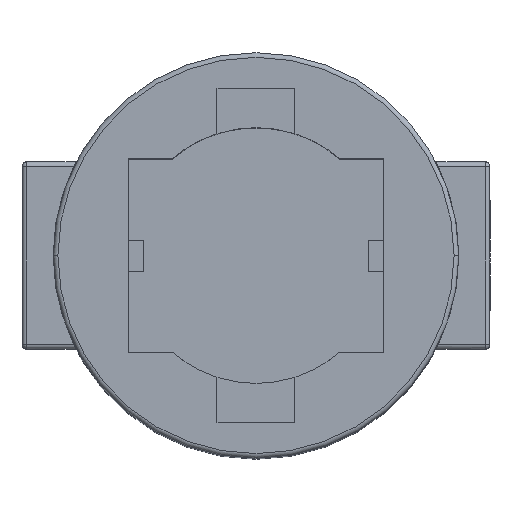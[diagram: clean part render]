
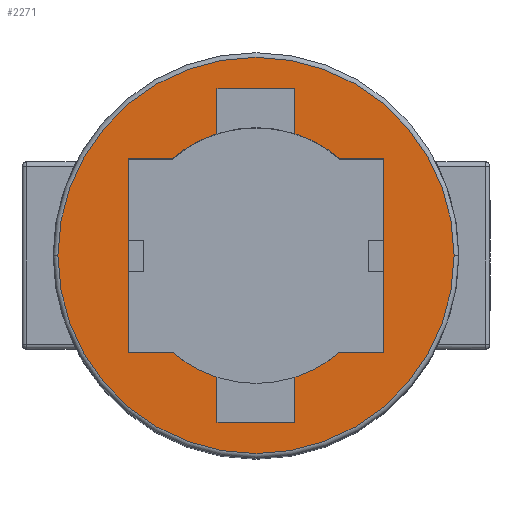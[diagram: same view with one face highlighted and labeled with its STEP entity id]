
A CAD part, top view. The second image highlights one B-rep face of the part: STEP entity #2271.
In plain terms, the highlighted planar face has unit normal (0, 0, 1).
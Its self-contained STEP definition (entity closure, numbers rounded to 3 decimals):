
#14 = LINE ( 'NONE', #1258, #1644 ) ;
#38 = VERTEX_POINT ( 'NONE', #153 ) ;
#61 = CARTESIAN_POINT ( 'NONE',  ( -12.5, -53.5, 191.6 ) ) ;
#64 = CARTESIAN_POINT ( 'NONE',  ( 12.5, 39.048, 191.6 ) ) ;
#102 = LINE ( 'NONE', #287, #2418 ) ;
#133 = VECTOR ( 'NONE', #1469, 1000. ) ;
#150 = EDGE_CURVE ( 'NONE', #2546, #1042, #1935, .T. ) ;
#153 = CARTESIAN_POINT ( 'NONE',  ( -26.833, 31., 191.6 ) ) ;
#156 = DIRECTION ( 'NONE',  ( 0., -1., 0. ) ) ;
#172 = ORIENTED_EDGE ( 'NONE', *, *, #150, .F. ) ;
#189 = DIRECTION ( 'NONE',  ( 0., 1., 0. ) ) ;
#190 = CARTESIAN_POINT ( 'NONE',  ( -12.5, -39.048, 191.6 ) ) ;
#207 = DIRECTION ( 'NONE',  ( -1., 0., 0. ) ) ;
#216 = VERTEX_POINT ( 'NONE', #502 ) ;
#228 = CARTESIAN_POINT ( 'NONE',  ( 0., 0., 191.6 ) ) ;
#245 = ORIENTED_EDGE ( 'NONE', *, *, #1901, .F. ) ;
#275 = DIRECTION ( 'NONE',  ( 0., 1., 0. ) ) ;
#276 = LINE ( 'NONE', #61, #1636 ) ;
#287 = CARTESIAN_POINT ( 'NONE',  ( 12.5, 53.5, 191.6 ) ) ;
#323 = ORIENTED_EDGE ( 'NONE', *, *, #2184, .F. ) ;
#345 = CARTESIAN_POINT ( 'NONE',  ( 0., 0., 191.6 ) ) ;
#365 = CARTESIAN_POINT ( 'NONE',  ( -41., 31., 191.6 ) ) ;
#411 = CARTESIAN_POINT ( 'NONE',  ( -12.5, 53.5, 191.6 ) ) ;
#442 = VECTOR ( 'NONE', #1996, 1000. ) ;
#458 = VERTEX_POINT ( 'NONE', #603 ) ;
#462 = DIRECTION ( 'NONE',  ( 0., 1., 0. ) ) ;
#481 = CARTESIAN_POINT ( 'NONE',  ( 63.5, 0., 191.6 ) ) ;
#488 = AXIS2_PLACEMENT_3D ( 'NONE', #345, #1479, #2010 ) ;
#500 = ORIENTED_EDGE ( 'NONE', *, *, #974, .F. ) ;
#502 = CARTESIAN_POINT ( 'NONE',  ( 26.833, 31., 191.6 ) ) ;
#503 = DIRECTION ( 'NONE',  ( 0., 0., 1. ) ) ;
#603 = CARTESIAN_POINT ( 'NONE',  ( -12.5, 39.048, 191.6 ) ) ;
#616 = LINE ( 'NONE', #1913, #2343 ) ;
#631 = EDGE_CURVE ( 'NONE', #1476, #2634, #14, .T. ) ;
#637 = EDGE_CURVE ( 'NONE', #1794, #1552, #616, .T. ) ;
#638 = DIRECTION ( 'NONE',  ( 1., 0., 0. ) ) ;
#642 = CARTESIAN_POINT ( 'NONE',  ( -41., 31., 191.6 ) ) ;
#662 = EDGE_CURVE ( 'NONE', #1068, #1524, #896, .T. ) ;
#668 = LINE ( 'NONE', #1515, #2431 ) ;
#687 = DIRECTION ( 'NONE',  ( 1., 0., 0. ) ) ;
#696 = CARTESIAN_POINT ( 'NONE',  ( 41., 31., 191.6 ) ) ;
#716 = VERTEX_POINT ( 'NONE', #1542 ) ;
#733 = ORIENTED_EDGE ( 'NONE', *, *, #778, .F. ) ;
#738 = VECTOR ( 'NONE', #2305, 1000. ) ;
#778 = EDGE_CURVE ( 'NONE', #1042, #1959, #668, .T. ) ;
#836 = CARTESIAN_POINT ( 'NONE',  ( 0., 0., 191.6 ) ) ;
#849 = CARTESIAN_POINT ( 'NONE',  ( 41., -31., 191.6 ) ) ;
#866 = LINE ( 'NONE', #642, #133 ) ;
#869 = VECTOR ( 'NONE', #999, 1000. ) ;
#887 = DIRECTION ( 'NONE',  ( 0., 0., 1. ) ) ;
#896 = CIRCLE ( 'NONE', #1160, 63.5 ) ;
#914 = EDGE_CURVE ( 'NONE', #458, #38, #1753, .T. ) ;
#927 = EDGE_CURVE ( 'NONE', #1153, #1794, #1419, .T. ) ;
#970 = LINE ( 'NONE', #411, #442 ) ;
#974 = EDGE_CURVE ( 'NONE', #38, #1153, #2056, .T. ) ;
#988 = CARTESIAN_POINT ( 'NONE',  ( -12.5, 53.5, 191.6 ) ) ;
#999 = DIRECTION ( 'NONE',  ( 0., -1., 0. ) ) ;
#1022 = AXIS2_PLACEMENT_3D ( 'NONE', #1874, #2710, #1465 ) ;
#1042 = VERTEX_POINT ( 'NONE', #849 ) ;
#1055 = ORIENTED_EDGE ( 'NONE', *, *, #631, .F. ) ;
#1059 = VERTEX_POINT ( 'NONE', #1095 ) ;
#1066 = CIRCLE ( 'NONE', #1199, 41. ) ;
#1068 = VERTEX_POINT ( 'NONE', #1896 ) ;
#1088 = EDGE_CURVE ( 'NONE', #1524, #1068, #2626, .T. ) ;
#1095 = CARTESIAN_POINT ( 'NONE',  ( -12.5, 53.5, 191.6 ) ) ;
#1128 = DIRECTION ( 'NONE',  ( 1., 0., 0. ) ) ;
#1138 = AXIS2_PLACEMENT_3D ( 'NONE', #2576, #2545, #687 ) ;
#1143 = EDGE_LOOP ( 'NONE', ( #172, #2381, #1055, #2683, #2592, #1759, #1349, #1675, #500, #1369, #2690, #323, #245, #1239, #2256, #733 ) ) ;
#1148 = CARTESIAN_POINT ( 'NONE',  ( -41., 31., 191.6 ) ) ;
#1149 = VERTEX_POINT ( 'NONE', #64 ) ;
#1153 = VERTEX_POINT ( 'NONE', #1148 ) ;
#1160 = AXIS2_PLACEMENT_3D ( 'NONE', #228, #2285, #1468 ) ;
#1199 = AXIS2_PLACEMENT_3D ( 'NONE', #1786, #503, #1377 ) ;
#1239 = ORIENTED_EDGE ( 'NONE', *, *, #2518, .F. ) ;
#1249 = EDGE_CURVE ( 'NONE', #1059, #458, #1670, .T. ) ;
#1258 = CARTESIAN_POINT ( 'NONE',  ( 12.5, -53.5, 191.6 ) ) ;
#1262 = CARTESIAN_POINT ( 'NONE',  ( 12.5, -53.5, 191.6 ) ) ;
#1349 = ORIENTED_EDGE ( 'NONE', *, *, #637, .F. ) ;
#1368 = CARTESIAN_POINT ( 'NONE',  ( -26.833, -31., 191.6 ) ) ;
#1369 = ORIENTED_EDGE ( 'NONE', *, *, #914, .F. ) ;
#1377 = DIRECTION ( 'NONE',  ( 1., 0., 0. ) ) ;
#1395 = EDGE_CURVE ( 'NONE', #1934, #1476, #2147, .T. ) ;
#1414 = FACE_OUTER_BOUND ( 'NONE', #2544, .T. ) ;
#1419 = LINE ( 'NONE', #2665, #1964 ) ;
#1459 = CIRCLE ( 'NONE', #2407, 41. ) ;
#1465 = DIRECTION ( 'NONE',  ( 1., 0., 0. ) ) ;
#1468 = DIRECTION ( 'NONE',  ( 1., 0., 0. ) ) ;
#1469 = DIRECTION ( 'NONE',  ( -1., 0., 0. ) ) ;
#1476 = VERTEX_POINT ( 'NONE', #1262 ) ;
#1479 = DIRECTION ( 'NONE',  ( 0., 0., 1. ) ) ;
#1515 = CARTESIAN_POINT ( 'NONE',  ( 41., 31., 191.6 ) ) ;
#1517 = CARTESIAN_POINT ( 'NONE',  ( -41., -31., 191.6 ) ) ;
#1524 = VERTEX_POINT ( 'NONE', #481 ) ;
#1542 = CARTESIAN_POINT ( 'NONE',  ( 12.5, 53.5, 191.6 ) ) ;
#1552 = VERTEX_POINT ( 'NONE', #1368 ) ;
#1633 = VERTEX_POINT ( 'NONE', #190 ) ;
#1636 = VECTOR ( 'NONE', #1777, 1000. ) ;
#1644 = VECTOR ( 'NONE', #189, 1000. ) ;
#1650 = CARTESIAN_POINT ( 'NONE',  ( 12.5, -39.048, 191.6 ) ) ;
#1665 = VECTOR ( 'NONE', #207, 1000. ) ;
#1666 = FACE_BOUND ( 'NONE', #1143, .T. ) ;
#1670 = LINE ( 'NONE', #988, #869 ) ;
#1675 = ORIENTED_EDGE ( 'NONE', *, *, #927, .F. ) ;
#1753 = CIRCLE ( 'NONE', #2055, 41. ) ;
#1758 = EDGE_CURVE ( 'NONE', #1959, #216, #866, .T. ) ;
#1759 = ORIENTED_EDGE ( 'NONE', *, *, #2069, .F. ) ;
#1777 = DIRECTION ( 'NONE',  ( 0., -1., 0. ) ) ;
#1786 = CARTESIAN_POINT ( 'NONE',  ( 0., 0., 191.6 ) ) ;
#1792 = PLANE ( 'NONE',  #488 ) ;
#1794 = VERTEX_POINT ( 'NONE', #1517 ) ;
#1869 = DIRECTION ( 'NONE',  ( 0., 0., 1. ) ) ;
#1874 = CARTESIAN_POINT ( 'NONE',  ( 0., 0., 191.6 ) ) ;
#1896 = CARTESIAN_POINT ( 'NONE',  ( -63.5, 0., 191.6 ) ) ;
#1901 = EDGE_CURVE ( 'NONE', #1149, #716, #102, .T. ) ;
#1913 = CARTESIAN_POINT ( 'NONE',  ( -41., -31., 191.6 ) ) ;
#1934 = VERTEX_POINT ( 'NONE', #1963 ) ;
#1935 = LINE ( 'NONE', #2580, #2386 ) ;
#1959 = VERTEX_POINT ( 'NONE', #696 ) ;
#1963 = CARTESIAN_POINT ( 'NONE',  ( -12.5, -53.5, 191.6 ) ) ;
#1964 = VECTOR ( 'NONE', #156, 1000. ) ;
#1996 = DIRECTION ( 'NONE',  ( -1., 0., 0. ) ) ;
#2010 = DIRECTION ( 'NONE',  ( 1., 0., 0. ) ) ;
#2055 = AXIS2_PLACEMENT_3D ( 'NONE', #2679, #1869, #2265 ) ;
#2056 = LINE ( 'NONE', #365, #1665 ) ;
#2069 = EDGE_CURVE ( 'NONE', #1552, #1633, #2201, .T. ) ;
#2078 = DIRECTION ( 'NONE',  ( 1., 0., 0. ) ) ;
#2119 = CARTESIAN_POINT ( 'NONE',  ( -12.5, -53.5, 191.6 ) ) ;
#2123 = EDGE_CURVE ( 'NONE', #1633, #1934, #276, .T. ) ;
#2147 = LINE ( 'NONE', #2119, #738 ) ;
#2171 = CARTESIAN_POINT ( 'NONE',  ( 26.833, -31., 191.6 ) ) ;
#2184 = EDGE_CURVE ( 'NONE', #716, #1059, #970, .T. ) ;
#2201 = CIRCLE ( 'NONE', #1022, 41. ) ;
#2256 = ORIENTED_EDGE ( 'NONE', *, *, #1758, .F. ) ;
#2265 = DIRECTION ( 'NONE',  ( 1., 0., 0. ) ) ;
#2269 = ORIENTED_EDGE ( 'NONE', *, *, #1088, .T. ) ;
#2271 = ADVANCED_FACE ( 'NONE', ( #1414, #1666 ), #1792, .T. ) ;
#2285 = DIRECTION ( 'NONE',  ( 0., 0., 1. ) ) ;
#2305 = DIRECTION ( 'NONE',  ( 1., 0., 0. ) ) ;
#2343 = VECTOR ( 'NONE', #2078, 1000. ) ;
#2381 = ORIENTED_EDGE ( 'NONE', *, *, #2675, .F. ) ;
#2386 = VECTOR ( 'NONE', #1128, 1000. ) ;
#2407 = AXIS2_PLACEMENT_3D ( 'NONE', #836, #887, #638 ) ;
#2418 = VECTOR ( 'NONE', #275, 1000. ) ;
#2431 = VECTOR ( 'NONE', #462, 1000. ) ;
#2518 = EDGE_CURVE ( 'NONE', #216, #1149, #1066, .T. ) ;
#2544 = EDGE_LOOP ( 'NONE', ( #2269, #2703 ) ) ;
#2545 = DIRECTION ( 'NONE',  ( 0., 0., 1. ) ) ;
#2546 = VERTEX_POINT ( 'NONE', #2171 ) ;
#2576 = CARTESIAN_POINT ( 'NONE',  ( 0., 0., 191.6 ) ) ;
#2580 = CARTESIAN_POINT ( 'NONE',  ( -41., -31., 191.6 ) ) ;
#2592 = ORIENTED_EDGE ( 'NONE', *, *, #2123, .F. ) ;
#2626 = CIRCLE ( 'NONE', #1138, 63.5 ) ;
#2634 = VERTEX_POINT ( 'NONE', #1650 ) ;
#2665 = CARTESIAN_POINT ( 'NONE',  ( -41., 31., 191.6 ) ) ;
#2675 = EDGE_CURVE ( 'NONE', #2634, #2546, #1459, .T. ) ;
#2679 = CARTESIAN_POINT ( 'NONE',  ( 0., 0., 191.6 ) ) ;
#2683 = ORIENTED_EDGE ( 'NONE', *, *, #1395, .F. ) ;
#2690 = ORIENTED_EDGE ( 'NONE', *, *, #1249, .F. ) ;
#2703 = ORIENTED_EDGE ( 'NONE', *, *, #662, .T. ) ;
#2710 = DIRECTION ( 'NONE',  ( 0., 0., 1. ) ) ;
